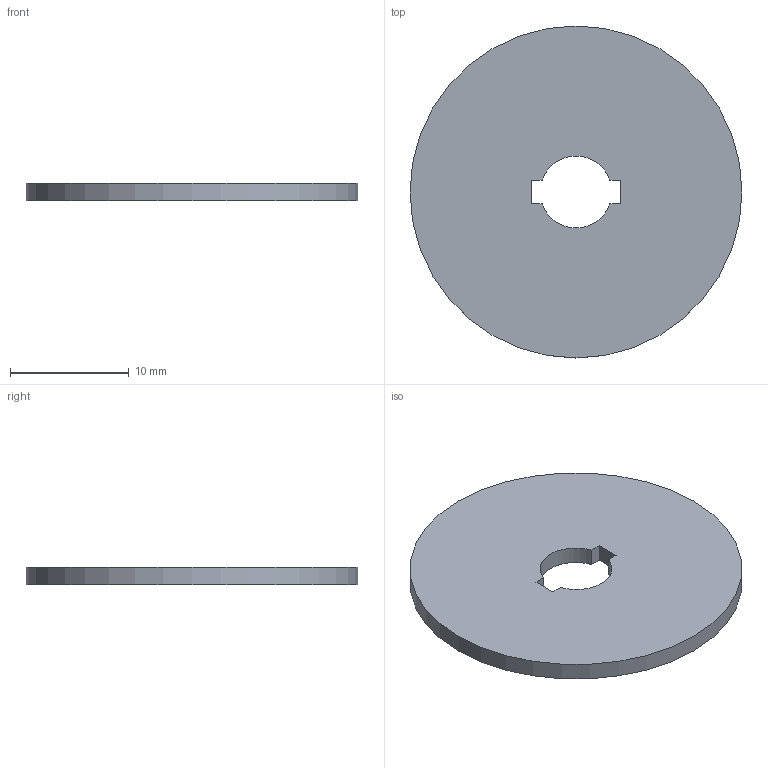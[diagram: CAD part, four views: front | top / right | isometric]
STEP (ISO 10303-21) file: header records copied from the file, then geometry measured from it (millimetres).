
FILE_DESCRIPTION(('Open CASCADE Model'),'2;1');
FILE_NAME('Open CASCADE Shape Model','2026-09-24T19:52:59',('Author'),( 'Open CASCADE'),'Open CASCADE STEP processor 7.8','Open CASCADE 7.8' ,'Unknown');
FILE_SCHEMA(('AUTOMOTIVE_DESIGN { 1 0 10303 214 1 1 1 1 }'));
Length unit declared in the file: millimetre
Products named in the file (1): Open CASCADE STEP translator 7.8 47
Bounding box: 28 x 28 x 1.5 mm (x, y, z)
Volume: 875.6 mm3; surface area: 1333.3 mm2
Topology: 1 solids, 1 shells, 11 faces, 27 edges, 18 vertices
Faces by surface type: plane 8, cylinder 3
Full cylindrical faces by diameter (mm): 28 x1
Entity records: 660 total; most frequent: CARTESIAN_POINT 143, DIRECTION 79, ORIENTED_EDGE 54, PCURVE 54, DEFINITIONAL_REPRESENTATION 54, LINE 37, VECTOR 37, B_SPLINE_CURVE_WITH_KNOTS 32
